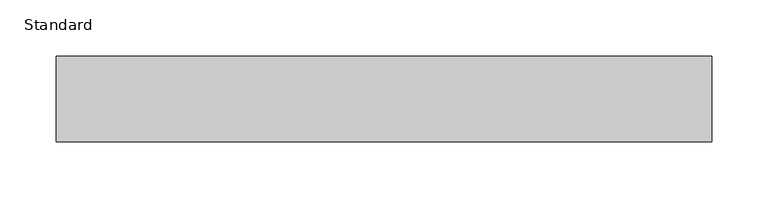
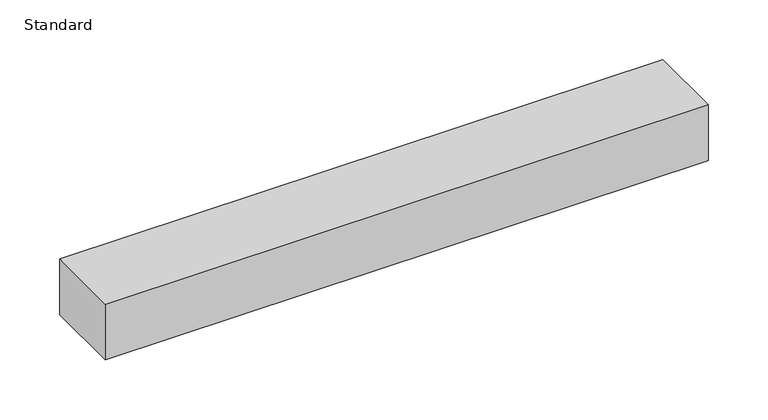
"""IFC4 building model written with IfcOpenShell, lengths in millimetres: proxy geometry, Raceway-ALA3800_Series-Wiremold-Steel : Standard."""

from ifc_helpers import new_model, si_unit, origin, origin_with_axes, place, context, project, spatial, polyline, outline, extrude, source, transform, mapped, element, save


def standard_a486ae91(model_context):
    return source(origin(), model_context, "Body", "SweptSolid", [
        extrude(outline(polyline([(584.2, 38.1), (584.2, -38.1), (0.0, -38.1), (0.0, 38.1), (584.2, 38.1)])), origin_with_axes(), (0.0, 0.0, 1.0), 57.15),
    ])


if __name__ == "__main__":
    model = new_model("IFC4")
    model_context = context("Model", 3, world=origin())
    ifc_project = project(units=[si_unit("LENGTHUNIT", "METRE", prefix="MILLI")], contexts=[model_context])
    site = spatial("IfcSite", under=ifc_project)
    building = spatial("IfcBuilding", under=site)
    placement = place(None, origin())
    standard_shape = standard_a486ae91(model_context)
    element("IfcBuildingElementProxy", 1, Name="Raceway-ALA3800_Series-Wiremold-Steel : Standard", ObjectType="Raceway-ALA3800_Series-Wiremold-Steel : Standard", at=placement, inside=building, context=model_context, shape_type="MappedRepresentation", body=[
        mapped(standard_shape, transform((0.0, 0.0, 0.0), x_axis=(1.0, 0.0, 0.0), y_axis=(0.0, 1.0, 0.0), z_axis=(0.0, 0.0, 1.0))),
    ])
    save(model, "model.ifc")
